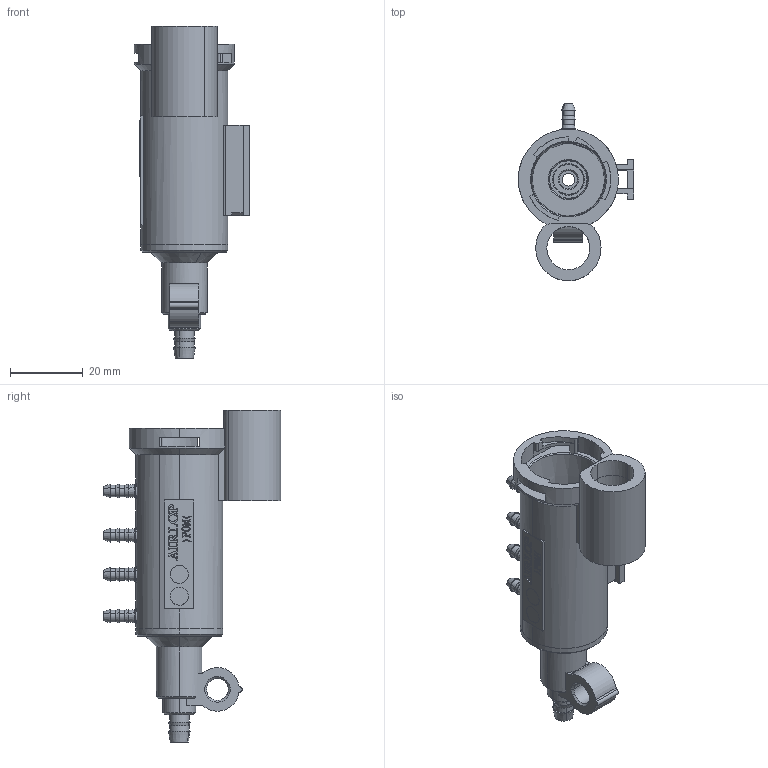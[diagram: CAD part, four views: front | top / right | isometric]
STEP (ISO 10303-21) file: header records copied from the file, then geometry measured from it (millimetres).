
FILE_DESCRIPTION(('CATIA V5 STEP Exchange'),'2;1');
FILE_NAME('C:\Users\Administrator\Desktop\阀体样件B.stp','2021-05-28T09:24:42+00:00',('none'),('none'),'CATIA Version 5 Release 20 GA (IN-10)','CATIA V5 STEP AP214','none');
FILE_SCHEMA(('AUTOMOTIVE_DESIGN { 1 0 10303 214 1 1 1 1 }'));
Length unit declared in the file: millimetre
Products named in the file (1): BPC0010078
Bounding box: 31.8 x 49 x 91.5 mm (x, y, z)
Volume: 14892.5 mm3; surface area: 14843.5 mm2
Topology: 1 solids, 1 shells, 1361 faces, 3889 edges, 2576 vertices
Faces by surface type: plane 1159, cylinder 118, cone 65, torus 18, extrusion 1
Entity records: 44307 total; most frequent: CARTESIAN_POINT 9469, ORIENTED_EDGE 7778, DIRECTION 6230, EDGE_CURVE 3889, VECTOR 3462, LINE 3461, VERTEX_POINT 2576, AXIS2_PLACEMENT_3D 1540
